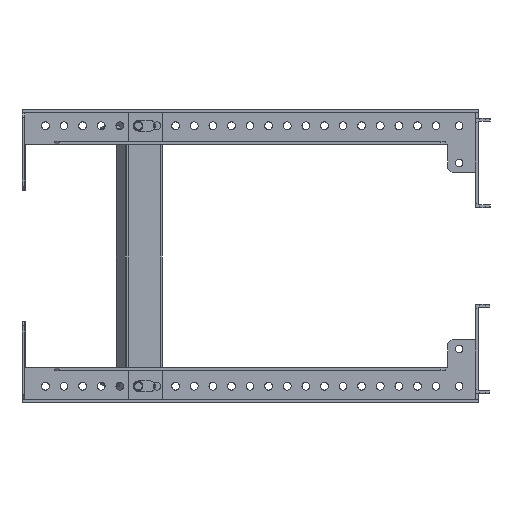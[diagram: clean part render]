
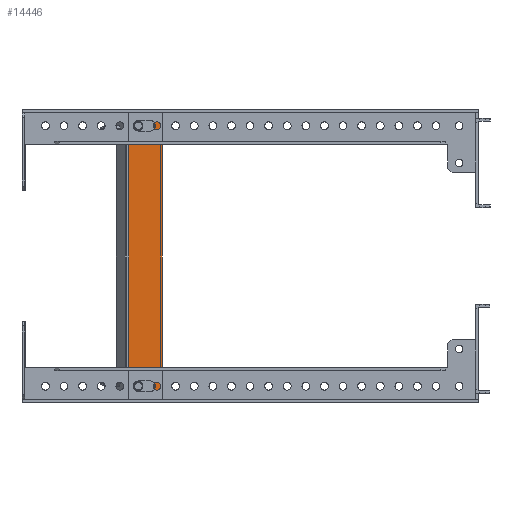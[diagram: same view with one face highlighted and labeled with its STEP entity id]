
A CAD part, front view. The second image highlights one B-rep face of the part: STEP entity #14446.
In plain terms, the highlighted planar face has unit normal (0, -1, 0).
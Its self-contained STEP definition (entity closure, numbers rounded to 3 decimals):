
#266 = CARTESIAN_POINT ( 'NONE',  ( 1120.302, -254., 87.5 ) ) ;
#470 = ORIENTED_EDGE ( 'NONE', *, *, #9875, .F. ) ;
#1213 = DIRECTION ( 'NONE',  ( -1., 0., 0. ) ) ;
#1243 = CARTESIAN_POINT ( 'NONE',  ( 1112.302, -254., -91. ) ) ;
#1246 = CARTESIAN_POINT ( 'NONE',  ( 1112.302, -254., -91. ) ) ;
#1256 = CIRCLE ( 'NONE', #22327, 3.5 ) ;
#1683 = DIRECTION ( 'NONE',  ( -1., 0., 0. ) ) ;
#1883 = VECTOR ( 'NONE', #17156, 1000. ) ;
#1898 = VECTOR ( 'NONE', #4910, 1000. ) ;
#1971 = VECTOR ( 'NONE', #19688, 1000. ) ;
#1990 = DIRECTION ( 'NONE',  ( 0., 1., 0. ) ) ;
#2045 = ORIENTED_EDGE ( 'NONE', *, *, #12177, .T. ) ;
#2047 = AXIS2_PLACEMENT_3D ( 'NONE', #21845, #17151, #13302 ) ;
#2170 = CARTESIAN_POINT ( 'NONE',  ( 1120.302, -254., -91. ) ) ;
#2452 = CARTESIAN_POINT ( 'NONE',  ( 1112.302, -254., -87.5 ) ) ;
#2645 = CARTESIAN_POINT ( 'NONE',  ( 1128.304, -254., -100.859 ) ) ;
#2791 = CARTESIAN_POINT ( 'NONE',  ( 1112.302, -254., -84. ) ) ;
#3201 = CIRCLE ( 'NONE', #3598, 3.5 ) ;
#3598 = AXIS2_PLACEMENT_3D ( 'NONE', #19787, #11456, #1683 ) ;
#3696 = EDGE_CURVE ( 'NONE', #6774, #14133, #9750, .T. ) ;
#4210 = FACE_BOUND ( 'NONE', #8309, .T. ) ;
#4833 = VECTOR ( 'NONE', #9487, 1000. ) ;
#4910 = DIRECTION ( 'NONE',  ( 0., 0., 1. ) ) ;
#5073 = EDGE_CURVE ( 'NONE', #14133, #25773, #24321, .T. ) ;
#5108 = ORIENTED_EDGE ( 'NONE', *, *, #3696, .F. ) ;
#5119 = CARTESIAN_POINT ( 'NONE',  ( 1150.146, -254., -97.5 ) ) ;
#5478 = ORIENTED_EDGE ( 'NONE', *, *, #6444, .T. ) ;
#5689 = AXIS2_PLACEMENT_3D ( 'NONE', #14382, #12267, #22563 ) ;
#5784 = EDGE_LOOP ( 'NONE', ( #15285, #16678, #25427, #21068 ) ) ;
#5801 = CARTESIAN_POINT ( 'NONE',  ( 1105.802, -254., -97.5 ) ) ;
#6120 = DIRECTION ( 'NONE',  ( -1., 0., 0. ) ) ;
#6164 = AXIS2_PLACEMENT_3D ( 'NONE', #26074, #24211, #6120 ) ;
#6246 = ORIENTED_EDGE ( 'NONE', *, *, #5073, .F. ) ;
#6444 = EDGE_CURVE ( 'NONE', #18612, #20142, #24814, .T. ) ;
#6774 = VERTEX_POINT ( 'NONE', #12720 ) ;
#7143 = VERTEX_POINT ( 'NONE', #23124 ) ;
#7221 = VERTEX_POINT ( 'NONE', #25618 ) ;
#7257 = DIRECTION ( 'NONE',  ( -1., 0., 0. ) ) ;
#8309 = EDGE_LOOP ( 'NONE', ( #5478, #2045, #16612, #17343, #10532 ) ) ;
#8492 = CARTESIAN_POINT ( 'NONE',  ( 1120.302, -254., 84. ) ) ;
#8595 = CARTESIAN_POINT ( 'NONE',  ( 1112.302, -254., 91. ) ) ;
#9225 = EDGE_CURVE ( 'NONE', #22038, #18612, #17435, .T. ) ;
#9487 = DIRECTION ( 'NONE',  ( 1., 0., 0. ) ) ;
#9750 = LINE ( 'NONE', #23898, #1971 ) ;
#9875 = EDGE_CURVE ( 'NONE', #24394, #24139, #12508, .T. ) ;
#10236 = EDGE_CURVE ( 'NONE', #7221, #10628, #12042, .T. ) ;
#10484 = EDGE_CURVE ( 'NONE', #24139, #6774, #11779, .T. ) ;
#10521 = EDGE_CURVE ( 'NONE', #10628, #22038, #1256, .T. ) ;
#10532 = ORIENTED_EDGE ( 'NONE', *, *, #9225, .T. ) ;
#10628 = VERTEX_POINT ( 'NONE', #20989 ) ;
#10933 = LINE ( 'NONE', #5119, #1883 ) ;
#11214 = CARTESIAN_POINT ( 'NONE',  ( 1112.302, -254., 84. ) ) ;
#11456 = DIRECTION ( 'NONE',  ( 0., -1., 0. ) ) ;
#11489 = CARTESIAN_POINT ( 'NONE',  ( 1120.302, -254., -87.5 ) ) ;
#11636 = CARTESIAN_POINT ( 'NONE',  ( 1105.802, -254., -97.5 ) ) ;
#11751 = CARTESIAN_POINT ( 'NONE',  ( 1112.302, -254., 84. ) ) ;
#11779 = CIRCLE ( 'NONE', #25276, 3.5 ) ;
#11849 = ORIENTED_EDGE ( 'NONE', *, *, #10484, .F. ) ;
#12042 = LINE ( 'NONE', #8595, #19481 ) ;
#12098 = DIRECTION ( 'NONE',  ( 0., -1., 0. ) ) ;
#12177 = EDGE_CURVE ( 'NONE', #20142, #7221, #13337, .T. ) ;
#12267 = DIRECTION ( 'NONE',  ( 0., 1., 0. ) ) ;
#12508 = LINE ( 'NONE', #1246, #14845 ) ;
#12552 = VECTOR ( 'NONE', #21657, 1000. ) ;
#12720 = CARTESIAN_POINT ( 'NONE',  ( 1120.302, -254., -84. ) ) ;
#12972 = EDGE_LOOP ( 'NONE', ( #470, #22265, #6246, #5108, #11849 ) ) ;
#13065 = VERTEX_POINT ( 'NONE', #5801 ) ;
#13107 = VECTOR ( 'NONE', #1213, 1000. ) ;
#13302 = DIRECTION ( 'NONE',  ( -1., 0., 0. ) ) ;
#13337 = CIRCLE ( 'NONE', #6164, 3.5 ) ;
#13579 = CARTESIAN_POINT ( 'NONE',  ( 1128.304, -254., -97.5 ) ) ;
#14133 = VERTEX_POINT ( 'NONE', #2791 ) ;
#14382 = CARTESIAN_POINT ( 'NONE',  ( 1150.77, -254., 0. ) ) ;
#14446 = ADVANCED_FACE ( 'NONE', ( #16248, #4210, #20715 ), #18217, .F. ) ;
#14769 = EDGE_CURVE ( 'NONE', #25773, #24394, #3201, .T. ) ;
#14845 = VECTOR ( 'NONE', #19077, 1000. ) ;
#15101 = LINE ( 'NONE', #11636, #12552 ) ;
#15285 = ORIENTED_EDGE ( 'NONE', *, *, #19954, .F. ) ;
#16248 = FACE_OUTER_BOUND ( 'NONE', #5784, .T. ) ;
#16612 = ORIENTED_EDGE ( 'NONE', *, *, #10236, .T. ) ;
#16678 = ORIENTED_EDGE ( 'NONE', *, *, #18189, .F. ) ;
#17151 = DIRECTION ( 'NONE',  ( 0., 1., 0. ) ) ;
#17156 = DIRECTION ( 'NONE',  ( -1., 0., 0. ) ) ;
#17343 = ORIENTED_EDGE ( 'NONE', *, *, #10521, .T. ) ;
#17435 = LINE ( 'NONE', #11751, #13107 ) ;
#17597 = VERTEX_POINT ( 'NONE', #19906 ) ;
#17835 = DIRECTION ( 'NONE',  ( 0., -1., 0. ) ) ;
#18189 = EDGE_CURVE ( 'NONE', #13065, #17597, #15101, .T. ) ;
#18217 = PLANE ( 'NONE',  #5689 ) ;
#18433 = AXIS2_PLACEMENT_3D ( 'NONE', #2452, #12098, #22508 ) ;
#18528 = CARTESIAN_POINT ( 'NONE',  ( 1108.802, -254., -87.5 ) ) ;
#18612 = VERTEX_POINT ( 'NONE', #11214 ) ;
#18634 = VERTEX_POINT ( 'NONE', #13579 ) ;
#19077 = DIRECTION ( 'NONE',  ( 1., 0., 0. ) ) ;
#19410 = LINE ( 'NONE', #23359, #4833 ) ;
#19481 = VECTOR ( 'NONE', #20115, 1000. ) ;
#19688 = DIRECTION ( 'NONE',  ( -1., 0., 0. ) ) ;
#19787 = CARTESIAN_POINT ( 'NONE',  ( 1112.302, -254., -87.5 ) ) ;
#19906 = CARTESIAN_POINT ( 'NONE',  ( 1105.802, -254., 97.5 ) ) ;
#19954 = EDGE_CURVE ( 'NONE', #17597, #7143, #19410, .T. ) ;
#20115 = DIRECTION ( 'NONE',  ( 1., 0., 0. ) ) ;
#20142 = VERTEX_POINT ( 'NONE', #25187 ) ;
#20715 = FACE_BOUND ( 'NONE', #12972, .T. ) ;
#20748 = LINE ( 'NONE', #2645, #1898 ) ;
#20989 = CARTESIAN_POINT ( 'NONE',  ( 1120.302, -254., 91. ) ) ;
#21068 = ORIENTED_EDGE ( 'NONE', *, *, #25860, .T. ) ;
#21657 = DIRECTION ( 'NONE',  ( 0., 0., 1. ) ) ;
#21845 = CARTESIAN_POINT ( 'NONE',  ( 1112.302, -254., 87.5 ) ) ;
#22038 = VERTEX_POINT ( 'NONE', #8492 ) ;
#22265 = ORIENTED_EDGE ( 'NONE', *, *, #14769, .F. ) ;
#22327 = AXIS2_PLACEMENT_3D ( 'NONE', #266, #1990, #24298 ) ;
#22508 = DIRECTION ( 'NONE',  ( -1., 0., 0. ) ) ;
#22563 = DIRECTION ( 'NONE',  ( 1., 0., 0. ) ) ;
#23124 = CARTESIAN_POINT ( 'NONE',  ( 1128.304, -254., 97.5 ) ) ;
#23359 = CARTESIAN_POINT ( 'NONE',  ( 1105.802, -254., 97.5 ) ) ;
#23505 = EDGE_CURVE ( 'NONE', #18634, #13065, #10933, .T. ) ;
#23898 = CARTESIAN_POINT ( 'NONE',  ( 1112.302, -254., -84. ) ) ;
#24139 = VERTEX_POINT ( 'NONE', #2170 ) ;
#24211 = DIRECTION ( 'NONE',  ( 0., 1., 0. ) ) ;
#24298 = DIRECTION ( 'NONE',  ( -1., 0., 0. ) ) ;
#24321 = CIRCLE ( 'NONE', #18433, 3.5 ) ;
#24394 = VERTEX_POINT ( 'NONE', #1243 ) ;
#24814 = CIRCLE ( 'NONE', #2047, 3.5 ) ;
#25187 = CARTESIAN_POINT ( 'NONE',  ( 1108.802, -254., 87.5 ) ) ;
#25276 = AXIS2_PLACEMENT_3D ( 'NONE', #11489, #17835, #7257 ) ;
#25427 = ORIENTED_EDGE ( 'NONE', *, *, #23505, .F. ) ;
#25618 = CARTESIAN_POINT ( 'NONE',  ( 1112.302, -254., 91. ) ) ;
#25773 = VERTEX_POINT ( 'NONE', #18528 ) ;
#25860 = EDGE_CURVE ( 'NONE', #18634, #7143, #20748, .T. ) ;
#26074 = CARTESIAN_POINT ( 'NONE',  ( 1112.302, -254., 87.5 ) ) ;
